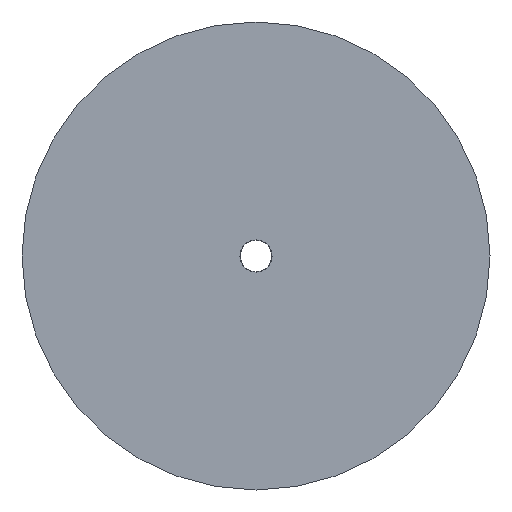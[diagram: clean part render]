
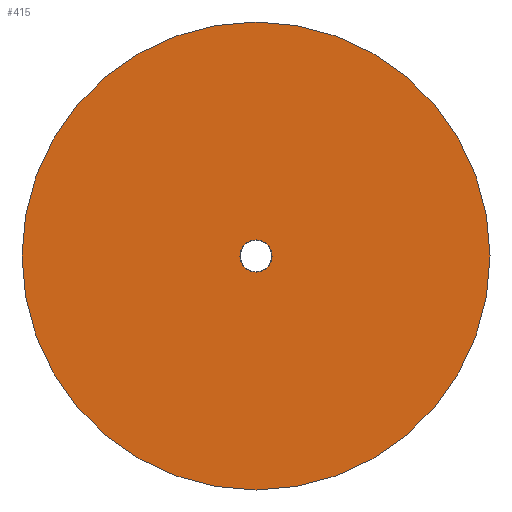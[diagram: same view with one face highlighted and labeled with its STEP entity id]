
A CAD part, front view. The second image highlights one B-rep face of the part: STEP entity #415.
In plain terms, the highlighted planar face has unit normal (0, -1, 0).
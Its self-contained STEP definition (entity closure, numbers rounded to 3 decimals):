
#10 = CARTESIAN_POINT ( 'NONE',  ( 0., 0., -29.5 ) ) ;
#16 = DIRECTION ( 'NONE',  ( 0., 0., 1. ) ) ;
#64 = AXIS2_PLACEMENT_3D ( 'NONE', #668, #192, #363 ) ;
#87 = AXIS2_PLACEMENT_3D ( 'NONE', #503, #196, #16 ) ;
#90 = DIRECTION ( 'NONE',  ( 0., -1., 0. ) ) ;
#107 = CIRCLE ( 'NONE', #130, 29.5 ) ;
#114 = DIRECTION ( 'NONE',  ( 0., -1., 0. ) ) ;
#120 = CARTESIAN_POINT ( 'NONE',  ( 0., 0., 0. ) ) ;
#126 = DIRECTION ( 'NONE',  ( 0., 1., 0. ) ) ;
#129 = CARTESIAN_POINT ( 'NONE',  ( 0., 0., -2.027 ) ) ;
#130 = AXIS2_PLACEMENT_3D ( 'NONE', #120, #126, #608 ) ;
#145 = EDGE_CURVE ( 'NONE', #688, #366, #290, .T. ) ;
#156 = CARTESIAN_POINT ( 'NONE',  ( 0., 0., 0. ) ) ;
#175 = CARTESIAN_POINT ( 'NONE',  ( 0., 0., 0. ) ) ;
#185 = EDGE_CURVE ( 'NONE', #366, #688, #411, .T. ) ;
#190 = ORIENTED_EDGE ( 'NONE', *, *, #185, .F. ) ;
#192 = DIRECTION ( 'NONE',  ( 0., 1., 0. ) ) ;
#194 = CIRCLE ( 'NONE', #64, 29.5 ) ;
#196 = DIRECTION ( 'NONE',  ( 0., 1., 0. ) ) ;
#223 = CARTESIAN_POINT ( 'NONE',  ( 0., 0., 2.027 ) ) ;
#229 = PLANE ( 'NONE',  #87 ) ;
#290 = CIRCLE ( 'NONE', #348, 2.027 ) ;
#294 = FACE_BOUND ( 'NONE', #533, .T. ) ;
#297 = CARTESIAN_POINT ( 'NONE',  ( 0., 0., 29.5 ) ) ;
#326 = EDGE_CURVE ( 'NONE', #635, #402, #107, .T. ) ;
#331 = ORIENTED_EDGE ( 'NONE', *, *, #493, .F. ) ;
#348 = AXIS2_PLACEMENT_3D ( 'NONE', #156, #90, #536 ) ;
#363 = DIRECTION ( 'NONE',  ( 0., 0., -1. ) ) ;
#366 = VERTEX_POINT ( 'NONE', #129 ) ;
#402 = VERTEX_POINT ( 'NONE', #297 ) ;
#411 = CIRCLE ( 'NONE', #513, 2.027 ) ;
#415 = ADVANCED_FACE ( 'NONE', ( #438, #294 ), #229, .F. ) ;
#432 = EDGE_LOOP ( 'NONE', ( #645, #331 ) ) ;
#438 = FACE_OUTER_BOUND ( 'NONE', #432, .T. ) ;
#493 = EDGE_CURVE ( 'NONE', #402, #635, #194, .T. ) ;
#503 = CARTESIAN_POINT ( 'NONE',  ( -7.468, 0., 0. ) ) ;
#513 = AXIS2_PLACEMENT_3D ( 'NONE', #175, #114, #547 ) ;
#533 = EDGE_LOOP ( 'NONE', ( #679, #190 ) ) ;
#536 = DIRECTION ( 'NONE',  ( 0., 0., 1. ) ) ;
#547 = DIRECTION ( 'NONE',  ( 0., 0., 1. ) ) ;
#608 = DIRECTION ( 'NONE',  ( 0., 0., -1. ) ) ;
#635 = VERTEX_POINT ( 'NONE', #10 ) ;
#645 = ORIENTED_EDGE ( 'NONE', *, *, #326, .F. ) ;
#668 = CARTESIAN_POINT ( 'NONE',  ( 0., 0., 0. ) ) ;
#679 = ORIENTED_EDGE ( 'NONE', *, *, #145, .F. ) ;
#688 = VERTEX_POINT ( 'NONE', #223 ) ;
